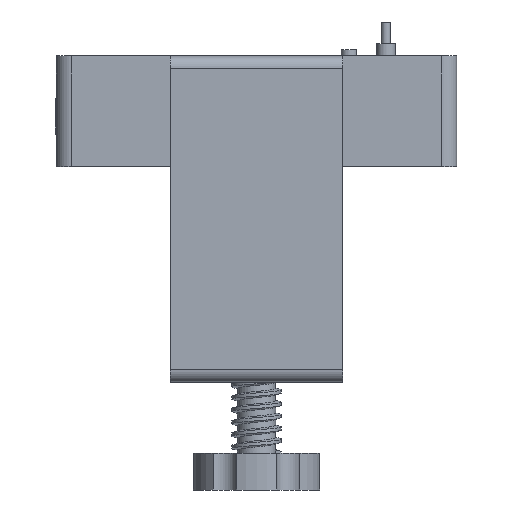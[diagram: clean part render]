
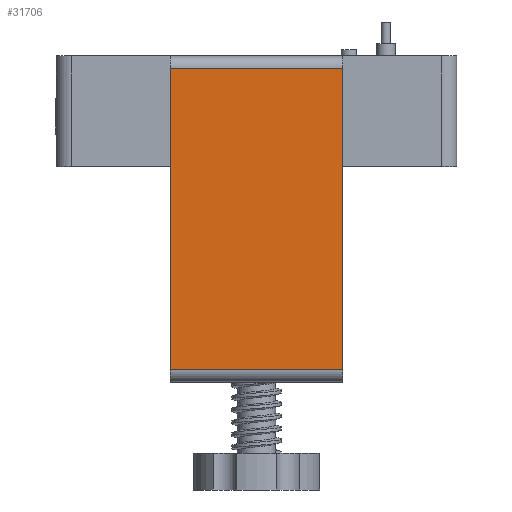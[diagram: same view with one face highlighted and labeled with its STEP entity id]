
A CAD part, front view. The second image highlights one B-rep face of the part: STEP entity #31706.
In plain terms, the highlighted planar face has unit normal (0, -1, 0).
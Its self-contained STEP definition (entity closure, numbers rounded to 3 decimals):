
#31344 = EDGE_CURVE('',#31345,#31347,#31349,.T.);
#31345 = VERTEX_POINT('',#31346);
#31346 = CARTESIAN_POINT('',(37.,-14.,-66.));
#31347 = VERTEX_POINT('',#31348);
#31348 = CARTESIAN_POINT('',(37.,-14.,32.));
#31349 = SURFACE_CURVE('',#31350,(#31354,#31366),.PCURVE_S1.);
#31350 = LINE('',#31351,#31352);
#31351 = CARTESIAN_POINT('',(37.,-14.,-70.));
#31352 = VECTOR('',#31353,1.);
#31353 = DIRECTION('',(0.,0.,1.));
#31354 = PCURVE('',#31355,#31360);
#31355 = PLANE('',#31356);
#31356 = AXIS2_PLACEMENT_3D('',#31357,#31358,#31359);
#31357 = CARTESIAN_POINT('',(37.,-14.,-70.));
#31358 = DIRECTION('',(1.,0.,0.));
#31359 = DIRECTION('',(0.,0.,1.));
#31360 = DEFINITIONAL_REPRESENTATION('',(#31361),#31365);
#31361 = LINE('',#31362,#31363);
#31362 = CARTESIAN_POINT('',(0.,0.));
#31363 = VECTOR('',#31364,1.);
#31364 = DIRECTION('',(1.,0.));
#31365 = ( GEOMETRIC_REPRESENTATION_CONTEXT(2) 
PARAMETRIC_REPRESENTATION_CONTEXT() REPRESENTATION_CONTEXT('2D SPACE',''
  ) );
#31366 = PCURVE('',#31367,#31372);
#31367 = PLANE('',#31368);
#31368 = AXIS2_PLACEMENT_3D('',#31369,#31370,#31371);
#31369 = CARTESIAN_POINT('',(37.,-14.,-70.));
#31370 = DIRECTION('',(0.,1.,0.));
#31371 = DIRECTION('',(0.,0.,1.));
#31372 = DEFINITIONAL_REPRESENTATION('',(#31373),#31377);
#31373 = LINE('',#31374,#31375);
#31374 = CARTESIAN_POINT('',(0.,0.));
#31375 = VECTOR('',#31376,1.);
#31376 = DIRECTION('',(1.,0.));
#31377 = ( GEOMETRIC_REPRESENTATION_CONTEXT(2) 
PARAMETRIC_REPRESENTATION_CONTEXT() REPRESENTATION_CONTEXT('2D SPACE',''
  ) );
#31400 = CYLINDRICAL_SURFACE('',#31401,4.);
#31401 = AXIS2_PLACEMENT_3D('',#31402,#31403,#31404);
#31402 = CARTESIAN_POINT('',(37.,-10.,-66.));
#31403 = DIRECTION('',(1.,0.,0.));
#31404 = DIRECTION('',(0.,0.,-1.));
#31695 = CYLINDRICAL_SURFACE('',#31696,4.);
#31696 = AXIS2_PLACEMENT_3D('',#31697,#31698,#31699);
#31697 = CARTESIAN_POINT('',(37.,-10.,32.));
#31698 = DIRECTION('',(1.,0.,0.));
#31699 = DIRECTION('',(0.,0.,1.));
#31706 = ADVANCED_FACE('',(#31707),#31367,.F.);
#31707 = FACE_BOUND('',#31708,.F.);
#31708 = EDGE_LOOP('',(#31709,#31710,#31733,#31761));
#31709 = ORIENTED_EDGE('',*,*,#31344,.T.);
#31710 = ORIENTED_EDGE('',*,*,#31711,.T.);
#31711 = EDGE_CURVE('',#31347,#31712,#31714,.T.);
#31712 = VERTEX_POINT('',#31713);
#31713 = CARTESIAN_POINT('',(93.,-14.,32.));
#31714 = SURFACE_CURVE('',#31715,(#31719,#31726),.PCURVE_S1.);
#31715 = LINE('',#31716,#31717);
#31716 = CARTESIAN_POINT('',(37.,-14.,32.));
#31717 = VECTOR('',#31718,1.);
#31718 = DIRECTION('',(1.,0.,0.));
#31719 = PCURVE('',#31367,#31720);
#31720 = DEFINITIONAL_REPRESENTATION('',(#31721),#31725);
#31721 = LINE('',#31722,#31723);
#31722 = CARTESIAN_POINT('',(102.,0.));
#31723 = VECTOR('',#31724,1.);
#31724 = DIRECTION('',(0.,1.));
#31725 = ( GEOMETRIC_REPRESENTATION_CONTEXT(2) 
PARAMETRIC_REPRESENTATION_CONTEXT() REPRESENTATION_CONTEXT('2D SPACE',''
  ) );
#31726 = PCURVE('',#31695,#31727);
#31727 = DEFINITIONAL_REPRESENTATION('',(#31728),#31732);
#31728 = LINE('',#31729,#31730);
#31729 = CARTESIAN_POINT('',(1.571,0.));
#31730 = VECTOR('',#31731,1.);
#31731 = DIRECTION('',(0.,1.));
#31732 = ( GEOMETRIC_REPRESENTATION_CONTEXT(2) 
PARAMETRIC_REPRESENTATION_CONTEXT() REPRESENTATION_CONTEXT('2D SPACE',''
  ) );
#31733 = ORIENTED_EDGE('',*,*,#31734,.F.);
#31734 = EDGE_CURVE('',#31735,#31712,#31737,.T.);
#31735 = VERTEX_POINT('',#31736);
#31736 = CARTESIAN_POINT('',(93.,-14.,-66.));
#31737 = SURFACE_CURVE('',#31738,(#31742,#31749),.PCURVE_S1.);
#31738 = LINE('',#31739,#31740);
#31739 = CARTESIAN_POINT('',(93.,-14.,-70.));
#31740 = VECTOR('',#31741,1.);
#31741 = DIRECTION('',(0.,0.,1.));
#31742 = PCURVE('',#31367,#31743);
#31743 = DEFINITIONAL_REPRESENTATION('',(#31744),#31748);
#31744 = LINE('',#31745,#31746);
#31745 = CARTESIAN_POINT('',(0.,56.));
#31746 = VECTOR('',#31747,1.);
#31747 = DIRECTION('',(1.,0.));
#31748 = ( GEOMETRIC_REPRESENTATION_CONTEXT(2) 
PARAMETRIC_REPRESENTATION_CONTEXT() REPRESENTATION_CONTEXT('2D SPACE',''
  ) );
#31749 = PCURVE('',#31750,#31755);
#31750 = PLANE('',#31751);
#31751 = AXIS2_PLACEMENT_3D('',#31752,#31753,#31754);
#31752 = CARTESIAN_POINT('',(93.,-14.,-70.));
#31753 = DIRECTION('',(1.,0.,0.));
#31754 = DIRECTION('',(0.,0.,1.));
#31755 = DEFINITIONAL_REPRESENTATION('',(#31756),#31760);
#31756 = LINE('',#31757,#31758);
#31757 = CARTESIAN_POINT('',(0.,0.));
#31758 = VECTOR('',#31759,1.);
#31759 = DIRECTION('',(1.,0.));
#31760 = ( GEOMETRIC_REPRESENTATION_CONTEXT(2) 
PARAMETRIC_REPRESENTATION_CONTEXT() REPRESENTATION_CONTEXT('2D SPACE',''
  ) );
#31761 = ORIENTED_EDGE('',*,*,#31762,.F.);
#31762 = EDGE_CURVE('',#31345,#31735,#31763,.T.);
#31763 = SURFACE_CURVE('',#31764,(#31768,#31775),.PCURVE_S1.);
#31764 = LINE('',#31765,#31766);
#31765 = CARTESIAN_POINT('',(37.,-14.,-66.));
#31766 = VECTOR('',#31767,1.);
#31767 = DIRECTION('',(1.,0.,0.));
#31768 = PCURVE('',#31367,#31769);
#31769 = DEFINITIONAL_REPRESENTATION('',(#31770),#31774);
#31770 = LINE('',#31771,#31772);
#31771 = CARTESIAN_POINT('',(4.,0.));
#31772 = VECTOR('',#31773,1.);
#31773 = DIRECTION('',(0.,1.));
#31774 = ( GEOMETRIC_REPRESENTATION_CONTEXT(2) 
PARAMETRIC_REPRESENTATION_CONTEXT() REPRESENTATION_CONTEXT('2D SPACE',''
  ) );
#31775 = PCURVE('',#31400,#31776);
#31776 = DEFINITIONAL_REPRESENTATION('',(#31777),#31781);
#31777 = LINE('',#31778,#31779);
#31778 = CARTESIAN_POINT('',(4.712,0.));
#31779 = VECTOR('',#31780,1.);
#31780 = DIRECTION('',(-0.,1.));
#31781 = ( GEOMETRIC_REPRESENTATION_CONTEXT(2) 
PARAMETRIC_REPRESENTATION_CONTEXT() REPRESENTATION_CONTEXT('2D SPACE',''
  ) );
